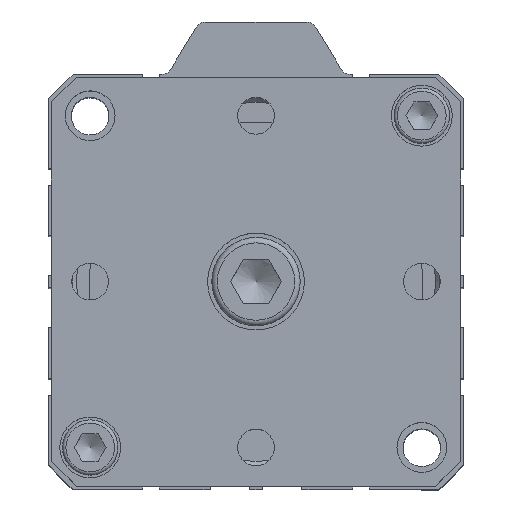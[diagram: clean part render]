
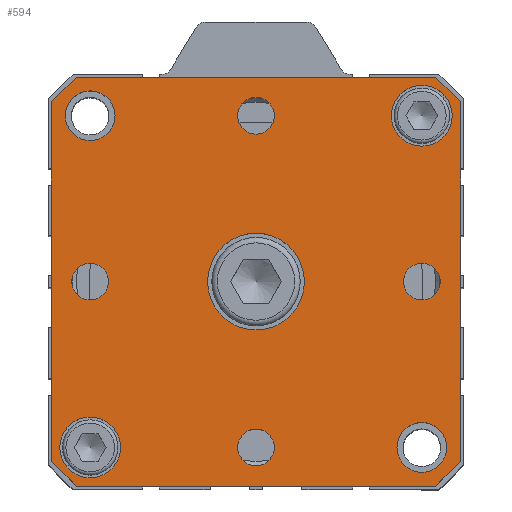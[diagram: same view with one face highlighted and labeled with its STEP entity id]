
A CAD part, top view. The second image highlights one B-rep face of the part: STEP entity #594.
In plain terms, the highlighted planar face has unit normal (0, 0, 1).
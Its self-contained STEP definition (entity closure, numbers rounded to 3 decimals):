
#196=CARTESIAN_POINT('',(32.859,35.684,115.5));
#197=VERTEX_POINT('',#196);
#198=CARTESIAN_POINT('',(37.359,31.184,115.5));
#199=VERTEX_POINT('',#198);
#200=CARTESIAN_POINT('',(32.859,35.684,115.5));
#201=DIRECTION('',(0.707,-0.707,0.0));
#202=VECTOR('',#201,6.364);
#203=LINE('',#200,#202);
#204=EDGE_CURVE('',#197,#199,#203,.T.);
#383=CARTESIAN_POINT('',(37.359,-33.816,115.5));
#384=VERTEX_POINT('',#383);
#385=CARTESIAN_POINT('',(37.359,31.184,115.5));
#386=DIRECTION('',(0.0,-1.0,0.0));
#387=VECTOR('',#386,65.);
#388=LINE('',#385,#387);
#389=EDGE_CURVE('',#199,#384,#388,.T.);
#406=CARTESIAN_POINT('',(32.859,-38.316,115.5));
#407=VERTEX_POINT('',#406);
#408=CARTESIAN_POINT('',(37.359,-33.816,115.5));
#409=DIRECTION('',(-0.707,-0.707,0.0));
#410=VECTOR('',#409,6.364);
#411=LINE('',#408,#410);
#412=EDGE_CURVE('',#384,#407,#411,.T.);
#430=CARTESIAN_POINT('',(-36.641,31.184,115.5));
#431=VERTEX_POINT('',#430);
#432=CARTESIAN_POINT('',(-32.141,35.684,115.5));
#433=VERTEX_POINT('',#432);
#434=CARTESIAN_POINT('',(-36.641,31.184,115.5));
#435=DIRECTION('',(0.707,0.707,0.0));
#436=VECTOR('',#435,6.364);
#437=LINE('',#434,#436);
#438=EDGE_CURVE('',#431,#433,#437,.T.);
#456=CARTESIAN_POINT('',(0.359,-1.316,115.5));
#457=DIRECTION('',(0.0,0.0,1.0));
#458=DIRECTION('',(1.0,0.0,0.0));
#459=AXIS2_PLACEMENT_3D('',#456,#457,#458);
#460=PLANE('',#459);
#461=ORIENTED_EDGE('',*,*,#204,.F.);
#462=CARTESIAN_POINT('',(-32.141,35.684,115.5));
#463=DIRECTION('',(1.0,0.0,0.0));
#464=VECTOR('',#463,65.0);
#465=LINE('',#462,#464);
#466=EDGE_CURVE('',#433,#197,#465,.T.);
#467=ORIENTED_EDGE('',*,*,#466,.F.);
#468=ORIENTED_EDGE('',*,*,#438,.F.);
#469=CARTESIAN_POINT('',(-36.641,-33.816,115.5));
#470=VERTEX_POINT('',#469);
#471=CARTESIAN_POINT('',(-36.641,-33.816,115.5));
#472=DIRECTION('',(0.0,1.0,0.0));
#473=VECTOR('',#472,65.0);
#474=LINE('',#471,#473);
#475=EDGE_CURVE('',#470,#431,#474,.T.);
#476=ORIENTED_EDGE('',*,*,#475,.F.);
#477=CARTESIAN_POINT('',(-32.141,-38.316,115.5));
#478=VERTEX_POINT('',#477);
#479=CARTESIAN_POINT('',(-32.141,-38.316,115.5));
#480=DIRECTION('',(-0.707,0.707,0.0));
#481=VECTOR('',#480,6.364);
#482=LINE('',#479,#481);
#483=EDGE_CURVE('',#478,#470,#482,.T.);
#484=ORIENTED_EDGE('',*,*,#483,.F.);
#485=CARTESIAN_POINT('',(32.859,-38.316,115.5));
#486=DIRECTION('',(-1.0,0.0,0.0));
#487=VECTOR('',#486,65.0);
#488=LINE('',#485,#487);
#489=EDGE_CURVE('',#407,#478,#488,.T.);
#490=ORIENTED_EDGE('',*,*,#489,.F.);
#491=ORIENTED_EDGE('',*,*,#412,.F.);
#492=ORIENTED_EDGE('',*,*,#389,.F.);
#493=EDGE_LOOP('',(#461,#467,#468,#476,#484,#490,#491,#492));
#494=FACE_OUTER_BOUND('',#493,.T.);
#495=CARTESIAN_POINT('',(9.109,-1.316,115.5));
#496=VERTEX_POINT('',#495);
#497=CARTESIAN_POINT('',(0.359,-1.316,115.5));
#498=DIRECTION('',(0.0,0.0,-1.0));
#499=DIRECTION('',(1.0,0.0,0.0));
#500=AXIS2_PLACEMENT_3D('',#497,#498,#499);
#501=CIRCLE('',#500,8.75);
#502=EDGE_CURVE('',#496,#496,#501,.T.);
#503=ORIENTED_EDGE('',*,*,#502,.T.);
#504=EDGE_LOOP('',(#503));
#505=FACE_BOUND('',#504,.T.);
#506=CARTESIAN_POINT('',(-24.141,-31.316,115.5));
#507=VERTEX_POINT('',#506);
#508=CARTESIAN_POINT('',(-29.641,-31.316,115.5));
#509=DIRECTION('',(0.0,0.0,-1.0));
#510=DIRECTION('',(1.0,0.0,0.0));
#511=AXIS2_PLACEMENT_3D('',#508,#509,#510);
#512=CIRCLE('',#511,5.5);
#513=EDGE_CURVE('',#507,#507,#512,.T.);
#514=ORIENTED_EDGE('',*,*,#513,.T.);
#515=EDGE_LOOP('',(#514));
#516=FACE_BOUND('',#515,.T.);
#517=CARTESIAN_POINT('',(35.859,28.684,115.5));
#518=VERTEX_POINT('',#517);
#519=CARTESIAN_POINT('',(30.359,28.684,115.5));
#520=DIRECTION('',(0.0,0.0,-1.0));
#521=DIRECTION('',(1.0,0.0,0.0));
#522=AXIS2_PLACEMENT_3D('',#519,#520,#521);
#523=CIRCLE('',#522,5.5);
#524=EDGE_CURVE('',#518,#518,#523,.T.);
#525=ORIENTED_EDGE('',*,*,#524,.T.);
#526=EDGE_LOOP('',(#525));
#527=FACE_BOUND('',#526,.T.);
#528=CARTESIAN_POINT('',(33.682,-1.316,115.5));
#529=VERTEX_POINT('',#528);
#530=CARTESIAN_POINT('',(30.359,-1.316,115.5));
#531=DIRECTION('',(0.0,0.0,-1.0));
#532=DIRECTION('',(1.0,0.0,0.0));
#533=AXIS2_PLACEMENT_3D('',#530,#531,#532);
#534=CIRCLE('',#533,3.324);
#535=EDGE_CURVE('',#529,#529,#534,.T.);
#536=ORIENTED_EDGE('',*,*,#535,.T.);
#537=EDGE_LOOP('',(#536));
#538=FACE_BOUND('',#537,.T.);
#539=CARTESIAN_POINT('',(3.682,-31.316,115.5));
#540=VERTEX_POINT('',#539);
#541=CARTESIAN_POINT('',(0.359,-31.316,115.5));
#542=DIRECTION('',(0.0,0.0,-1.0));
#543=DIRECTION('',(1.0,0.0,0.0));
#544=AXIS2_PLACEMENT_3D('',#541,#542,#543);
#545=CIRCLE('',#544,3.324);
#546=EDGE_CURVE('',#540,#540,#545,.T.);
#547=ORIENTED_EDGE('',*,*,#546,.T.);
#548=EDGE_LOOP('',(#547));
#549=FACE_BOUND('',#548,.T.);
#550=CARTESIAN_POINT('',(-26.318,-1.316,115.5));
#551=VERTEX_POINT('',#550);
#552=CARTESIAN_POINT('',(-29.641,-1.316,115.5));
#553=DIRECTION('',(0.0,0.0,-1.0));
#554=DIRECTION('',(1.0,0.0,0.0));
#555=AXIS2_PLACEMENT_3D('',#552,#553,#554);
#556=CIRCLE('',#555,3.324);
#557=EDGE_CURVE('',#551,#551,#556,.T.);
#558=ORIENTED_EDGE('',*,*,#557,.T.);
#559=EDGE_LOOP('',(#558));
#560=FACE_BOUND('',#559,.T.);
#561=CARTESIAN_POINT('',(3.682,28.684,115.5));
#562=VERTEX_POINT('',#561);
#563=CARTESIAN_POINT('',(0.359,28.684,115.5));
#564=DIRECTION('',(0.0,0.0,-1.0));
#565=DIRECTION('',(1.0,0.0,0.0));
#566=AXIS2_PLACEMENT_3D('',#563,#564,#565);
#567=CIRCLE('',#566,3.324);
#568=EDGE_CURVE('',#562,#562,#567,.T.);
#569=ORIENTED_EDGE('',*,*,#568,.T.);
#570=EDGE_LOOP('',(#569));
#571=FACE_BOUND('',#570,.T.);
#572=CARTESIAN_POINT('',(34.859,-31.316,115.5));
#573=VERTEX_POINT('',#572);
#574=CARTESIAN_POINT('',(30.359,-31.316,115.5));
#575=DIRECTION('',(0.0,0.0,-1.0));
#576=DIRECTION('',(-1.0,0.0,0.0));
#577=AXIS2_PLACEMENT_3D('',#574,#575,#576);
#578=CIRCLE('',#577,4.5);
#579=EDGE_CURVE('',#573,#573,#578,.T.);
#580=ORIENTED_EDGE('',*,*,#579,.T.);
#581=EDGE_LOOP('',(#580));
#582=FACE_BOUND('',#581,.T.);
#583=CARTESIAN_POINT('',(-25.141,28.684,115.5));
#584=VERTEX_POINT('',#583);
#585=CARTESIAN_POINT('',(-29.641,28.684,115.5));
#586=DIRECTION('',(0.0,0.0,-1.0));
#587=DIRECTION('',(-1.0,0.0,0.0));
#588=AXIS2_PLACEMENT_3D('',#585,#586,#587);
#589=CIRCLE('',#588,4.5);
#590=EDGE_CURVE('',#584,#584,#589,.T.);
#591=ORIENTED_EDGE('',*,*,#590,.T.);
#592=EDGE_LOOP('',(#591));
#593=FACE_BOUND('',#592,.T.);
#594=ADVANCED_FACE('',(#494,#505,#516,#527,#538,#549,#560,#571,#582,#593),#460,.T.);
